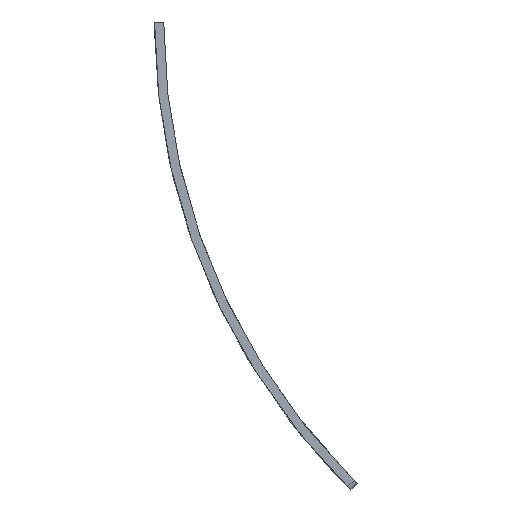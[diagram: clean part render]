
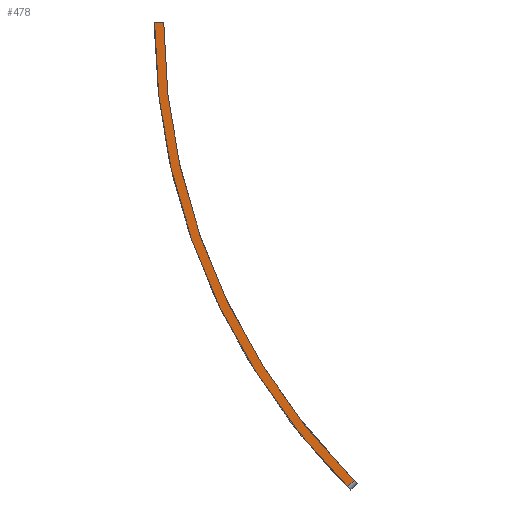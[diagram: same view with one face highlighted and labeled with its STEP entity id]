
A CAD part, left-side view. The second image highlights one B-rep face of the part: STEP entity #478.
In plain terms, the highlighted planar face has unit normal (-1, 0, 0).
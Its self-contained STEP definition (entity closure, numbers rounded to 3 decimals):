
#28=PLANE('',#541);
#35=CIRCLE('',#497,142.75);
#48=CIRCLE('',#514,140.75);
#82=FACE_OUTER_BOUND('',#113,.T.);
#113=EDGE_LOOP('',(#434,#435,#436,#437));
#120=LINE('',#902,#146);
#136=LINE('',#1089,#162);
#146=VECTOR('',#582,10.);
#162=VECTOR('',#646,10.);
#192=VERTEX_POINT('',#702);
#193=VERTEX_POINT('',#715);
#214=VERTEX_POINT('',#889);
#220=VERTEX_POINT('',#931);
#240=EDGE_CURVE('',#193,#192,#35,.T.);
#264=EDGE_CURVE('',#214,#192,#120,.T.);
#271=EDGE_CURVE('',#220,#214,#48,.T.);
#297=EDGE_CURVE('',#193,#220,#136,.T.);
#434=ORIENTED_EDGE('',*,*,#264,.F.);
#435=ORIENTED_EDGE('',*,*,#271,.F.);
#436=ORIENTED_EDGE('',*,*,#297,.F.);
#437=ORIENTED_EDGE('',*,*,#240,.T.);
#478=ADVANCED_FACE('',(#82),#28,.T.);
#497=AXIS2_PLACEMENT_3D('',#716,#553,#554);
#514=AXIS2_PLACEMENT_3D('',#933,#593,#594);
#541=AXIS2_PLACEMENT_3D('',#1102,#665,#666);
#553=DIRECTION('center_axis',(-1.,0.,0.));
#554=DIRECTION('ref_axis',(0.,1.,0.));
#582=DIRECTION('',(0.,0.707,-0.707));
#593=DIRECTION('center_axis',(-1.,0.,0.));
#594=DIRECTION('ref_axis',(0.,1.,0.));
#646=DIRECTION('',(0.,-1.,0.));
#665=DIRECTION('center_axis',(-1.,0.,0.));
#666=DIRECTION('ref_axis',(0.,1.,0.));
#702=CARTESIAN_POINT('',(3561.737,100.717,-2087.355));
#715=CARTESIAN_POINT('',(3561.737,142.75,-1986.193));
#716=CARTESIAN_POINT('Origin',(3561.737,0.,-1986.193));
#889=CARTESIAN_POINT('',(3561.737,99.303,-2085.941));
#902=CARTESIAN_POINT('',(3561.737,85.081,-2071.72));
#931=CARTESIAN_POINT('',(3561.737,140.75,-1986.193));
#933=CARTESIAN_POINT('Origin',(3561.737,0.,-1986.193));
#1089=CARTESIAN_POINT('',(3561.737,142.75,-1986.193));
#1102=CARTESIAN_POINT('Origin',(3561.737,140.75,-1986.193));
